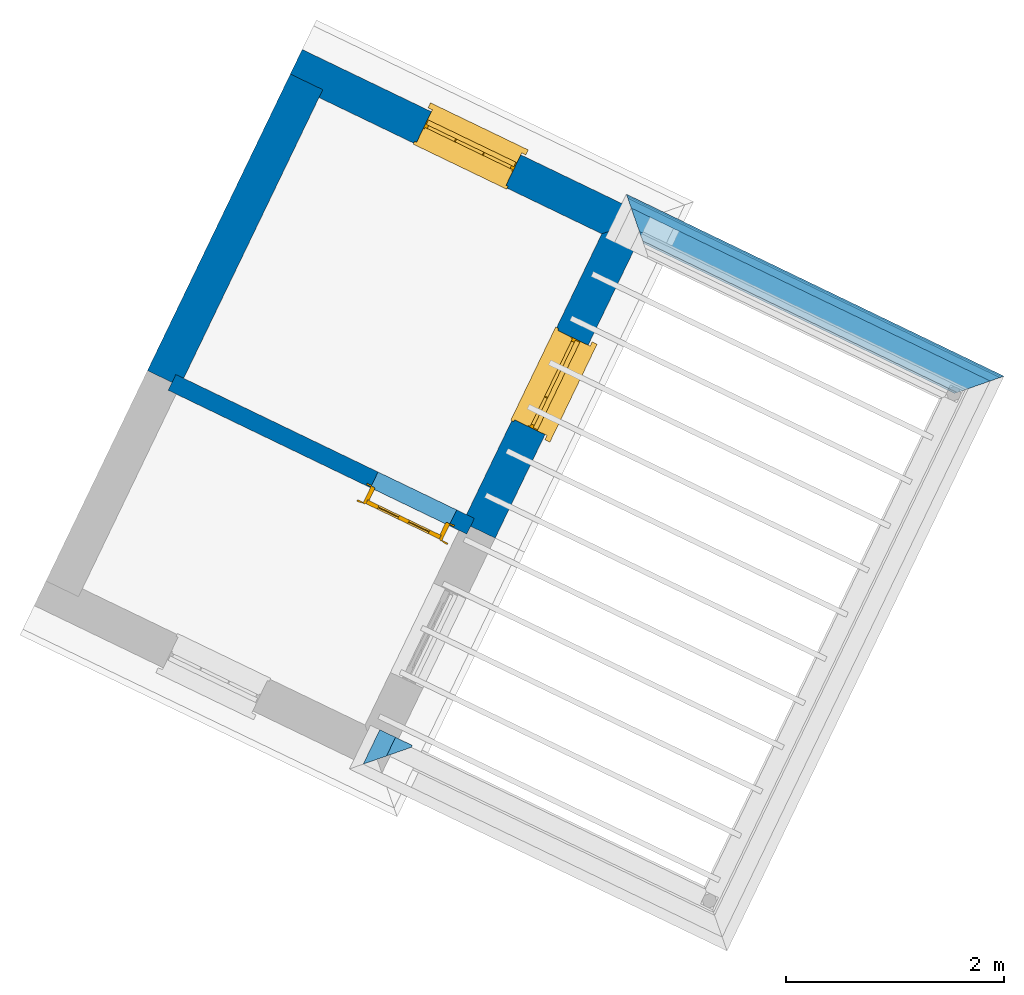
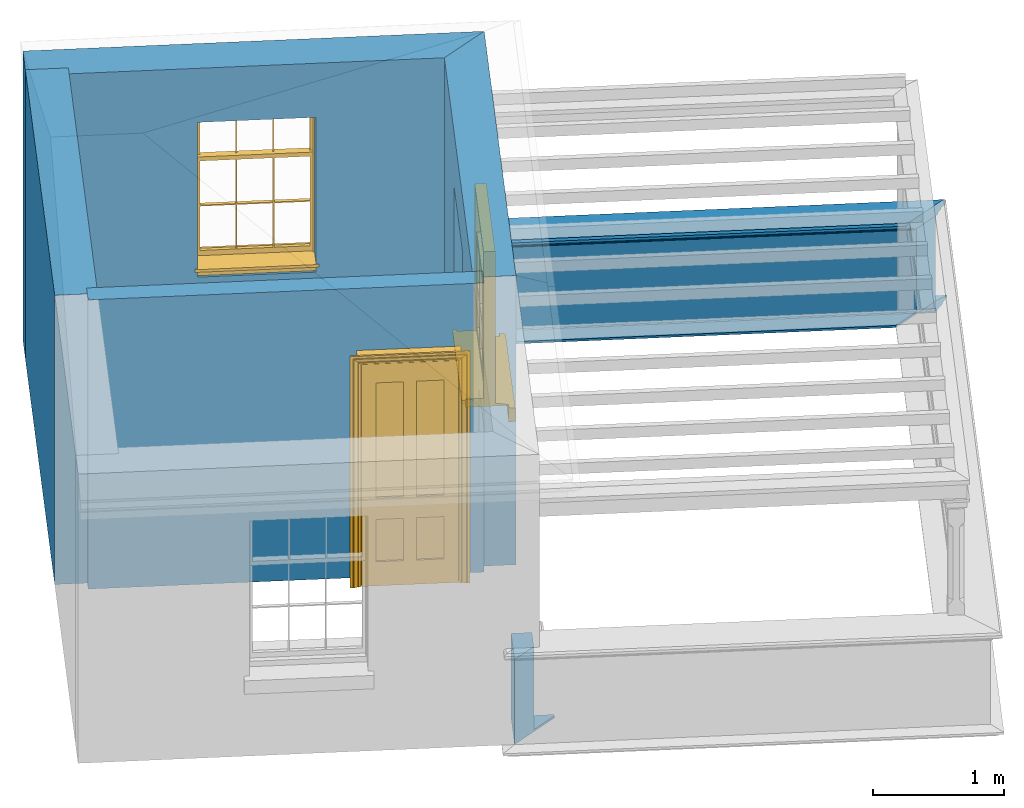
# One storey, part 3 of 4: 8 walls, 2 windows, 1 door, 3 openings.
"""IFC4 building model written with IfcOpenShell, lengths in metres."""

from ifc_helpers import new_model, si_unit, frame, origin, origin_with_axes, place, context, subcontext, project, spatial, polyline, outline, extrude, clip, halfspace, faceted_brep, source, transform, mapped, material, layer, layer_set, layer_usage, material_profile, profile_set, profile_usage, type_object, type_shapes, element, fill, save


model = new_model("IFC4")

# Units and contexts
model_context = context("Model", 3, world=origin_with_axes())
body_context = subcontext(model_context, "Body", "Model", "MODEL_VIEW")
ifc_project = project(units=[si_unit("PLANEANGLEUNIT", "RADIAN"), si_unit("MASSUNIT", "GRAM", prefix="KILO"), si_unit("FORCEUNIT", "NEWTON", prefix="KILO"), si_unit("LENGTHUNIT", "METRE"), si_unit("AREAUNIT", "SQUARE_METRE"), si_unit("VOLUMEUNIT", "CUBIC_METRE")], contexts=[model_context, model_context])

# Sites, building, storey
site_1_placement = place(None, origin_with_axes())
site_1 = spatial("IfcSite", under=ifc_project, at=site_1_placement, Name="Tamar")
site_2_placement = place(site_1_placement, origin_with_axes())
site_2 = spatial("IfcSite", under=site_1, at=site_2_placement, Name="Site plot-2", CompositionType="ELEMENT")
building_placement = place(None, origin_with_axes())
building = spatial("IfcBuilding", under=site_2, at=building_placement, Name="Building plot-2", CompositionType="ELEMENT")
storey_placement = place(None, frame((0.0, 0.0, 31.55), z_axis=(0.0, 0.0, 1.0), x_axis=(1.0, 0.0, 0.0)))
storey = spatial("IfcBuildingStorey", under=building, at=storey_placement, Name="plot-2 2", CompositionType="ELEMENT", Elevation=31.55)

# Wall, opening, window
ifc_material_1 = material(Name="Masonry")
ifc_layer_1 = layer(ifc_material_1, 0.33, ventilated=False)
ifc_layer_set_1 = layer_set([ifc_layer_1], Name="exterior_0.08_0.25")
ifc_layer_usage_1 = layer_usage(ifc_layer_set_1, "AXIS2", "POSITIVE", -0.25)
wall_type_1 = type_object("IfcWallType", Name="exterior_0.08_0.25", PredefinedType="SOLIDWALL", material=ifc_layer_set_1)
wall_1_placement = place(storey_placement, frame((231.383215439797, 291.919063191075, 0.0), z_axis=(0.0, 0.0, 1.0), x_axis=(0.434117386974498, 0.900856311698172, 0.0)))
wall_1 = element("IfcWall", 1, at=wall_1_placement, inside=storey, type_object=wall_type_1, material=ifc_layer_usage_1, Name="exterior", context=body_context, shape_type="SweptSolid", body=[
    extrude(outline(polyline([(-3.63926530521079e-14, 0.0799999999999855), (4.8032453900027e-14, -0.249999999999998), (3.26696753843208, -0.250000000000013), (2.93696753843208, 0.0800000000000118), (-3.63926530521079e-14, 0.0799999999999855)])), origin_with_axes(), (0.0, 0.0, 1.0), 2.7),
])
opening_1_placement = place(wall_1_placement, frame((1.05348376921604, 0.0, 0.749999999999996)))
opening_1 = element("IfcOpeningElement", 2, at=opening_1_placement, cuts=wall_1, Name="My Opening", ObjectType="Opening", context=body_context, shape_type="SweptSolid", body=[
    extrude(outline(polyline([(0.0, -0.269999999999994), (0.909999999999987, -0.270000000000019), (0.909999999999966, 1.09999999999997), (-2.08721928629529e-14, 1.1), (0.0, -0.269999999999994)])), origin_with_axes(), (0.0, 0.0, 1.0), 1.445),
])
window_type = type_object("IfcWindowType", Name="sash_shorter", PartitioningType="DOUBLE_PANEL_HORIZONTAL", PredefinedType="NOTDEFINED")
shared_shape_1 = source(origin(), body_context, "Body", "Brep", [
    faceted_brep([(0.876875, 0.145, 0.999097), (0.876875, 0.145, 1.411875), (0.9, 0.145, 1.435), (0.033125, 0.145, 1.411875), (0.033125, 0.145, 0.999097), (0.01, 0.145, 1.435), (0.033125, 0.115, 1.411875), (0.01, 0.115, 1.435), (0.033125, 0.115, 0.999097), (0.876875, 0.115, 1.411875), (0.876875, 0.115, 0.999097), (0.9, 0.115, 1.435), (0.033125, 0.145, 0.960972), (0.01, 0.145, 0.960972), (0.033125, 0.145, 0.548195), (0.876875, 0.145, 0.960972), (0.876875, 0.145, 0.548195), (0.9, 0.145, 0.960972), (0.876875, 0.145, 0.538195), (0.876875, 0.145, 0.125417), (0.9, 0.145, 0.077167), (0.033125, 0.145, 0.125417), (0.033125, 0.145, 0.538195), (0.01, 0.145, 0.077167), (0.9, 0.115, 0.960972), (0.01, 0.115, 0.960972), (-0.0425, 0.0, 0.01), (-0.0425, -0.05, 0.001667), (0.0, 0.0, 0.01), (0.9525, 0.0, 0.01), (0.91, 0.0, 0.01), (0.9525, -0.05, 0.001667), (-0.02, 0.33, 0.077167), (0.0, 0.33, 0.077167), (-0.02, 0.36, 0.077167), (0.0, 0.19, 0.077167), (0.01, 0.19, 0.077167), (0.91, 0.19, 0.077167), (0.91, 0.33, 0.077167), (0.9, 0.19, 0.077167), (0.93, 0.33, 0.077167), (0.93, 0.36, 0.077167), (0.01, 0.145, 0.999097), (0.01, 0.175, 0.999097), (0.9, 0.145, 0.999097), (0.9, 0.175, 0.999097), (0.876875, 0.175, 0.125417), (0.876875, 0.175, 0.538195), (0.9, 0.175, 0.077167), (0.876875, 0.175, 0.548195), (0.876875, 0.175, 0.960972), (0.033125, 0.175, 0.125417), (0.01, 0.175, 0.077167), (0.033125, 0.175, 0.538195), (0.033125, 0.175, 0.960972), (0.033125, 0.175, 0.548195), (-0.02, 0.33, 0.052167), (-0.02, 0.36, 0.052167), (0.93, 0.36, 0.052167), (0.93, 0.33, 0.052167), (0.91, 0.33, 0.052167), (0.0, 0.33, 0.052167), (0.91, 0.1, 0.026667), (0.0, 0.1, 0.026667), (-0.0425, -0.05, -0.123333), (0.9525, -0.05, -0.123333), (-0.0425, 0.0, -0.123333), (0.9525, 0.0, -0.123333), (0.01, 0.19, 1.435), (0.9, 0.19, 1.435), (0.0, 0.19, 1.445), (0.91, 0.19, 1.445), (0.01, 0.1, 0.077167), (0.9, 0.1, 0.077167), (0.592292, 0.145, 0.125417), (0.592292, 0.175, 0.125417), (0.317708, 0.175, 0.125417), (0.317708, 0.145, 0.125417), (0.592292, 0.145, 0.548195), (0.317708, 0.145, 0.548195), (0.317708, 0.145, 0.538195), (0.592292, 0.145, 0.538195), (0.592292, 0.175, 0.548195), (0.317708, 0.175, 0.548195), (0.602292, 0.175, 0.548195), (0.602292, 0.145, 0.548195), (0.317708, 0.175, 0.538195), (0.307708, 0.175, 0.125417), (0.307708, 0.175, 0.538195), (0.602292, 0.175, 0.538195), (0.602292, 0.175, 0.125417), (0.592292, 0.175, 0.538195), (0.307708, 0.175, 0.548195), (0.317708, 0.175, 0.960972), (0.307708, 0.175, 0.960972), (0.602292, 0.175, 0.960972), (0.592292, 0.175, 0.960972), (0.307708, 0.145, 0.538195), (0.307708, 0.145, 0.125417), (0.307708, 0.145, 0.548195), (0.307708, 0.145, 0.960972), (0.592292, 0.145, 0.960972), (0.317708, 0.145, 0.960972), (0.602292, 0.145, 0.960972), (0.602292, 0.145, 0.538195), (0.602292, 0.145, 0.125417), (0.317708, 0.115, 1.411875), (0.307708, 0.115, 1.411875), (0.307708, 0.115, 0.999097), (0.317708, 0.115, 0.999097), (0.602292, 0.115, 1.411875), (0.592292, 0.115, 1.411875), (0.592292, 0.115, 0.999097), (0.602292, 0.115, 0.999097), (0.317708, 0.145, 0.999097), (0.307708, 0.145, 0.999097), (0.307708, 0.145, 1.411875), (0.317708, 0.145, 1.411875), (0.602292, 0.145, 0.999097), (0.592292, 0.145, 0.999097), (0.592292, 0.145, 1.411875), (0.602292, 0.145, 1.411875), (0.91, 0.1, 1.445), (0.9, 0.1, 1.435), (0.01, 0.1, 1.435), (0.0, 0.1, 1.445), (0.91, 0.0, 0.0), (0.0, 0.0, 0.0), (0.91, 0.33, 0.0), (0.0, 0.33, 0.0)], [[[0, 1, 2]], [[3, 4, 5]], [[6, 7, 8]], [[9, 10, 11]], [[12, 13, 14]], [[15, 16, 17]], [[18, 19, 20]], [[21, 22, 23]], [[24, 15, 17]], [[13, 12, 25]], [[26, 27, 28]], [[29, 30, 31]], [[32, 33, 34]], [[35, 36, 33]], [[37, 38, 39]], [[40, 41, 38]], [[42, 4, 43]], [[44, 45, 0]], [[46, 47, 48]], [[49, 50, 45]], [[51, 52, 53]], [[54, 55, 43]], [[38, 33, 36, 39]], [[41, 34, 33, 38]], [[56, 32, 34, 57]], [[57, 34, 41, 58]], [[58, 41, 40, 59]], [[57, 58, 60, 61]], [[52, 48, 39, 36]], [[62, 63, 28, 30]], [[27, 31, 30, 28]], [[27, 64, 65, 31]], [[66, 67, 65, 64]], [[2, 5, 68, 69]], [[68, 70, 71, 69]], [[20, 23, 72, 73]], [[73, 72, 63, 62]], [[74, 75, 76, 77]], [[78, 79, 80, 81]], [[78, 82, 83, 79]], [[16, 49, 84, 85]], [[86, 76, 87, 88]], [[89, 90, 75, 91]], [[92, 88, 53, 55]], [[82, 91, 86, 83]], [[93, 83, 92, 94]], [[95, 84, 82, 96]], [[89, 84, 49, 47]], [[97, 88, 87, 98]], [[22, 53, 88, 97]], [[81, 91, 75, 74]], [[80, 86, 91, 81]], [[77, 76, 86, 80]], [[99, 92, 55, 14]], [[100, 94, 92, 99]], [[101, 96, 82, 78]], [[79, 83, 93, 102]], [[85, 84, 95, 103]], [[104, 89, 47, 18]], [[105, 90, 89, 104]], [[104, 18, 16, 85]], [[80, 97, 98, 77]], [[104, 81, 74, 105]], [[103, 101, 78, 85]], [[99, 14, 22, 97]], [[102, 100, 99, 79]], [[106, 107, 108, 109]], [[110, 111, 112, 113]], [[114, 115, 116, 117]], [[118, 119, 120, 121]], [[107, 116, 115, 108]], [[111, 120, 119, 112]], [[109, 114, 117, 106]], [[113, 118, 121, 110]], [[85, 78, 81, 104]], [[84, 89, 91, 82]], [[83, 86, 88, 92]], [[79, 99, 97, 80]], [[109, 112, 119, 114]], [[102, 93, 96, 101]], [[106, 117, 120, 111]], [[98, 87, 51, 21]], [[6, 3, 116, 107]], [[110, 121, 1, 9]], [[19, 46, 90, 105]], [[26, 66, 64, 27]], [[29, 31, 65, 67]], [[25, 24, 112, 109]], [[11, 7, 106, 111]], [[75, 48, 52, 76]], [[43, 45, 96, 93]], [[45, 43, 114, 119]], [[5, 2, 120, 117]], [[24, 25, 102, 101]], [[42, 5, 4]], [[2, 44, 0]], [[49, 45, 48, 47]], [[52, 43, 55, 53]], [[14, 13, 23, 22]], [[20, 17, 16, 18]], [[24, 11, 10]], [[25, 8, 7]], [[8, 4, 3, 6]], [[9, 1, 0, 10]], [[15, 50, 49, 16]], [[18, 47, 46, 19]], [[21, 51, 53, 22]], [[14, 55, 54, 12]], [[44, 2, 69, 45]], [[68, 5, 42, 43]], [[36, 35, 70, 68]], [[39, 69, 71, 37]], [[62, 122, 123, 73]], [[63, 72, 124, 125]], [[8, 108, 115, 4]], [[113, 10, 0, 118]], [[94, 100, 12, 54]], [[17, 20, 73, 24]], [[72, 23, 13, 25]], [[52, 36, 68, 43]], [[69, 39, 48, 45]], [[11, 24, 73, 123]], [[7, 124, 72, 25]], [[23, 77, 98]], [[98, 21, 23]], [[105, 74, 20]], [[20, 19, 105]], [[20, 74, 77, 23]], [[113, 112, 24]], [[24, 10, 113]], [[25, 109, 108]], [[108, 8, 25]], [[110, 9, 11]], [[11, 111, 110]], [[7, 6, 107]], [[107, 106, 7]], [[5, 117, 116]], [[116, 3, 5]], [[121, 120, 2]], [[2, 1, 121]], [[11, 123, 124, 7]], [[122, 125, 124, 123]], [[43, 93, 94]], [[94, 54, 43]], [[96, 45, 95]], [[50, 95, 45]], [[15, 103, 95, 50]], [[48, 75, 90]], [[90, 46, 48]], [[87, 76, 52]], [[52, 51, 87]], [[103, 15, 24]], [[24, 101, 103]], [[100, 102, 25]], [[25, 12, 100]], [[115, 114, 43]], [[43, 4, 115]], [[118, 0, 45]], [[45, 119, 118]], [[71, 70, 125, 122]], [[70, 35, 63, 125]], [[122, 62, 37, 71]], [[126, 67, 66, 127]], [[60, 58, 59]], [[38, 60, 59, 40]], [[61, 56, 57]], [[32, 56, 61, 33]], [[61, 60, 128, 129]], [[62, 60, 38, 37]], [[126, 128, 60, 62]], [[33, 61, 63, 35]], [[61, 129, 127, 63]], [[128, 126, 127, 129]], [[28, 127, 66, 26]], [[63, 127, 28]], [[29, 67, 126, 30]], [[30, 126, 62]]]),
])
type_shapes(window_type, [shared_shape_1])
window_1_placement = place(storey_placement, frame((232.083782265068, 292.750888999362, 0.749999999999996), z_axis=(0.0, 0.0, 1.0), x_axis=(0.39504682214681, 0.819779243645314, 0.0)))
window_1 = element("IfcWindow", 3, at=window_1_placement, inside=storey, type_object=window_type, Name="toilet outside window", OverallHeight=1.445, OverallWidth=0.91, context=body_context, shape_type="MappedRepresentation", body=[
    mapped(shared_shape_1, transform((0.0, 0.0, 0.0), scale=1.0)),
])
fill(opening_1, window_1)

wall_2_placement = place(storey_placement, frame((232.692933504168, 294.63691744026, 0.0), z_axis=(0.0, 0.0, 1.0), x_axis=(-0.900856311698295, 0.434117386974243, 0.0)))
wall_2 = element("IfcWall", 4, at=wall_2_placement, inside=storey, type_object=wall_type_1, material=ifc_layer_usage_1, Name="exterior", context=body_context, shape_type="SweptSolid", body=[
    extrude(outline(polyline([(0.0800000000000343, 0.0799999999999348), (-0.250000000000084, -0.249999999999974), (3.28765432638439, -0.250000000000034), (3.28765432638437, 0.0800000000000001), (0.0800000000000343, 0.0799999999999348)])), origin_with_axes(), (0.0, 0.0, 1.0), 2.7),
])
opening_2_placement = place(wall_2_placement, frame((1.06382716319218, 0.0, 0.749999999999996)))
opening_2 = element("IfcOpeningElement", 5, at=opening_2_placement, cuts=wall_2, Name="My Opening", ObjectType="Opening", context=body_context, shape_type="SweptSolid", body=[
    extrude(outline(polyline([(0.0, -0.27), (0.909999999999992, -0.269999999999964), (0.909999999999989, 1.10000000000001), (-2.22044604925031e-15, 1.09999999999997), (0.0, -0.27)])), origin_with_axes(), (0.0, 0.0, 1.0), 1.445),
])
window_2_placement = place(storey_placement, frame((231.851789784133, 295.341974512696, 0.749999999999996), z_axis=(0.0, 0.0, 1.0), x_axis=(-0.819779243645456, 0.395046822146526, 0.0)))
window_2 = element("IfcWindow", 6, at=window_2_placement, inside=storey, type_object=window_type, Name="toilet outside window", OverallHeight=1.445, OverallWidth=0.91, context=body_context, shape_type="MappedRepresentation", body=[
    mapped(shared_shape_1, transform((0.0, 0.0, 0.0), scale=1.0)),
])
fill(opening_2, window_2)

# Wall
ifc_material_2 = material(Name="Masonry")
ifc_layer_2 = layer(ifc_material_2, 0.33, ventilated=False)
ifc_layer_set_2 = layer_set([ifc_layer_2], Name="party_0.08_0.25")
ifc_layer_usage_2 = layer_usage(ifc_layer_set_2, "AXIS2", "POSITIVE", -0.25)
wall_type_2 = type_object("IfcWallType", Name="party_0.08_0.25", PredefinedType="SOLIDWALL", material=ifc_layer_set_2)
wall_3_placement = place(storey_placement, frame((229.956443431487, 295.955615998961, 0.0), z_axis=(0.0, 0.0, 1.0), x_axis=(-0.43411738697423, -0.900856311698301, 0.0)))
element("IfcWall", 7, at=wall_3_placement, inside=storey, type_object=wall_type_2, material=ifc_layer_usage_2, Name="party", context=body_context, shape_type="SweptSolid", body=[
    extrude(outline(polyline([(-1.26623564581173e-14, 0.0799999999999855), (-2.62969775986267e-14, -0.249999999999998), (3.01696753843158, -0.249999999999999), (3.01696753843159, 0.0799999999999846), (-1.26623564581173e-14, 0.0799999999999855)])), origin_with_axes(), (0.0, 0.0, 1.0), 2.7),
])

# Wall, opening, door
ifc_material_3 = material(Name="Masonry")
ifc_layer_3 = layer(ifc_material_3, 0.16, ventilated=False)
ifc_layer_set_3 = layer_set([ifc_layer_3], Name="interior_0.08_0.08")
ifc_layer_usage_3 = layer_usage(ifc_layer_set_3, "AXIS2", "POSITIVE", -0.08)
wall_type_3 = type_object("IfcWallType", Name="interior_0.08_0.08", PredefinedType="SOLIDWALL", material=ifc_layer_set_3)
wall_4_placement = place(storey_placement, frame((231.383215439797, 291.919063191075, 0.0), z_axis=(0.0, 0.0, 1.0), x_axis=(-0.900856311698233, 0.434117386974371, 0.0)))
wall_4 = element("IfcWall", 8, at=wall_4_placement, inside=storey, type_object=wall_type_3, material=ifc_layer_usage_3, Name="interior", context=body_context, shape_type="SweptSolid", body=[
    extrude(outline(polyline([(-1.18611651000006e-14, 0.0800000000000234), (1.18709622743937e-14, -0.0800000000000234), (3.03765432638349, -0.0800000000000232), (3.03765432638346, 0.0800000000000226), (-1.18611651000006e-14, 0.0800000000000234)])), origin_with_axes(), (0.0, 0.0, 1.0), 2.7),
])
opening_3_placement = place(wall_4_placement, frame((0.179999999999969, 0.0, 0.0199999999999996)))
opening_3 = element("IfcOpeningElement", 9, at=opening_3_placement, cuts=wall_4, Name="My Opening", ObjectType="Opening", context=body_context, shape_type="SweptSolid", body=[
    extrude(outline(polyline([(0.0, -0.0999999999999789), (0.800000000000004, -0.099999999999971), (0.800000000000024, 1.10000000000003), (2.04558592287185e-14, 1.10000000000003), (0.0, -0.0999999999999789)])), origin_with_axes(), (0.0, 0.0, 1.0), 2.1),
])
door_type = type_object("IfcDoorType", Name="door_inside", OperationType="SINGLE_SWING_LEFT", PredefinedType="NOTDEFINED")
shared_shape_2 = source(origin(), body_context, "Body", "Brep", [
    faceted_brep([(0.773, 0.33, 1.895), (0.66, 0.33, 1.895), (0.66, 0.33, 2.073), (0.773, 0.33, 2.073), (0.773, 0.33, 0.82), (0.66, 0.33, 0.82), (0.45, 0.33, 1.895), (0.45, 0.33, 2.073), (0.773, 0.33, 0.62), (0.66, 0.33, 0.62), (0.66, 0.315, 0.82), (0.66, 0.315, 1.895), (0.45, 0.315, 1.895), (0.35, 0.33, 1.895), (0.35, 0.33, 2.073), (0.773, 0.33, 0.225), (0.66, 0.33, 0.225), (0.45, 0.33, 0.62), (0.45, 0.33, 0.82), (0.45, 0.315, 0.82), (0.35, 0.33, 0.82), (0.14, 0.33, 2.073), (0.14, 0.33, 1.895), (0.773, 0.33, 0.0), (0.66, 0.33, 0.0), (0.66, 0.315, 0.225), (0.66, 0.315, 0.62), (0.45, 0.315, 0.62), (0.35, 0.33, 0.62), (0.35, 0.315, 0.82), (0.35, 0.315, 1.895), (0.14, 0.315, 1.895), (0.027, 0.33, 2.073), (0.027, 0.33, 1.895), (0.773, 0.292, 0.0), (0.66, 0.292, 0.0), (0.45, 0.33, 0.0), (0.45, 0.33, 0.225), (0.45, 0.315, 0.225), (0.35, 0.33, 0.225), (0.14, 0.33, 0.82), (0.14, 0.33, 0.62), (0.14, 0.315, 0.82), (0.027, 0.33, 0.82), (0.773, 0.292, 0.225), (0.66, 0.292, 0.225), (0.45, 0.292, 0.0), (0.35, 0.33, 0.0), (0.35, 0.315, 0.225), (0.35, 0.315, 0.62), (0.14, 0.315, 0.62), (0.027, 0.33, 0.62), (0.773, 0.292, 0.62), (0.66, 0.292, 0.62), (0.45, 0.292, 0.225), (0.35, 0.292, 0.0), (0.14, 0.33, 0.225), (0.14, 0.33, 0.0), (0.14, 0.315, 0.225), (0.027, 0.33, 0.225), (0.773, 0.292, 0.82), (0.66, 0.292, 0.82), (0.66, 0.307, 0.62), (0.66, 0.307, 0.225), (0.45, 0.307, 0.225), (0.35, 0.292, 0.225), (0.14, 0.292, 0.0), (0.027, 0.33, 0.0), (0.773, 0.292, 1.895), (0.66, 0.292, 1.895), (0.45, 0.292, 0.62), (0.45, 0.292, 0.82), (0.45, 0.307, 0.62), (0.35, 0.292, 0.62), (0.14, 0.292, 0.225), (0.027, 0.292, 0.0), (0.773, 0.292, 2.073), (0.66, 0.292, 2.073), (0.66, 0.307, 1.895), (0.66, 0.307, 0.82), (0.45, 0.307, 0.82), (0.35, 0.292, 0.82), (0.35, 0.307, 0.62), (0.35, 0.307, 0.225), (0.14, 0.307, 0.225), (0.027, 0.292, 0.225), (0.45, 0.292, 1.895), (0.45, 0.292, 2.073), (0.45, 0.307, 1.895), (0.35, 0.292, 1.895), (0.14, 0.292, 0.82), (0.14, 0.292, 0.62), (0.14, 0.307, 0.62), (0.027, 0.292, 0.62), (0.35, 0.292, 2.073), (0.35, 0.307, 1.895), (0.35, 0.307, 0.82), (0.14, 0.307, 0.82), (0.027, 0.292, 0.82), (0.14, 0.292, 2.073), (0.14, 0.292, 1.895), (0.14, 0.307, 1.895), (0.027, 0.292, 1.895), (0.027, 0.292, 2.073), (0.02, 0.335, 0.0), (0.005, 0.34, 0.0), (0.005, 0.34, 2.095), (0.02, 0.335, 2.08), (0.02, 0.33, 0.0), (0.0, 0.335, 0.0), (0.0, 0.335, 2.1), (0.795, 0.34, 2.095), (0.78, 0.335, 2.08), (0.02, 0.33, 2.08), (0.0, 0.33, 0.0), (-0.032, 0.345, 0.0), (-0.032, 0.345, 2.132), (0.8, 0.335, 2.1), (0.795, 0.34, 0.0), (0.78, 0.335, 0.0), (0.78, 0.33, 2.08), (0.04, 0.29, 0.0), (0.025, 0.29, 0.0), (0.025, 0.29, 2.075), (0.04, 0.29, 2.06), (-0.04, 0.34, 0.0), (-0.04, 0.34, 2.14), (0.832, 0.345, 2.132), (0.8, 0.335, 0.0), (0.78, 0.33, 0.0), (0.8, 0.33, 0.0), (0.86, 0.33, 0.0), (0.86, 0.33, 2.16), (0.8, 0.33, 2.1), (-0.06, 0.33, 2.16), (0.0, 0.33, 2.1), (-0.06, 0.33, 0.0), (-0.04, 0.345, 0.0), (-0.04, 0.345, 2.14), (0.84, 0.34, 2.14), (0.832, 0.345, 0.0), (0.84, 0.34, 0.0), (0.86, 0.345, 0.0), (0.86, 0.345, 2.16), (-0.06, 0.345, 2.16), (-0.06, 0.345, 0.0), (0.84, 0.345, 0.0), (0.84, 0.345, 2.14), (-0.025, 0.155, 0.0), (-0.025, 0.16, 0.0), (-0.025, 0.16, 2.125), (-0.025, 0.155, 2.125), (-0.017, 0.155, 0.0), (-0.017, 0.155, 2.117), (0.825, 0.16, 2.125), (0.825, 0.155, 2.125), (0.825, 0.155, 0.0), (0.845, 0.155, 0.0), (-0.045, 0.155, 2.145), (-0.045, 0.155, 0.0), (0.845, 0.155, 2.145), (0.015, 0.165, 0.0), (0.015, 0.165, 2.085), (0.817, 0.155, 2.117), (0.825, 0.16, 0.0), (0.845, 0.17, 0.0), (0.845, 0.17, 2.145), (-0.045, 0.17, 2.145), (-0.045, 0.17, 0.0), (0.02, 0.16, 0.0), (0.02, 0.16, 2.08), (0.785, 0.165, 2.085), (0.817, 0.155, 0.0), (0.8, 0.17, 0.0), (0.8, 0.17, 2.1), (0.0, 0.17, 2.1), (0.0, 0.17, 0.0), (0.035, 0.165, 0.0), (0.035, 0.165, 2.065), (0.78, 0.16, 2.08), (0.785, 0.165, 0.0), (0.775, 0.29, 2.075), (0.76, 0.29, 2.06), (0.035, 0.17, 2.065), (0.035, 0.17, 0.0), (0.765, 0.165, 2.065), (0.78, 0.16, 0.0), (0.765, 0.17, 0.0), (0.765, 0.17, 2.065), (0.765, 0.165, 0.0), (0.04, 0.17, 2.06), (0.04, 0.17, 0.0), (0.76, 0.17, 2.06), (0.76, 0.17, 0.0), (0.76, 0.29, 0.0), (0.775, 0.29, 0.0), (0.025, 0.33, 0.0), (0.025, 0.33, 2.075), (0.775, 0.33, 0.0), (0.775, 0.33, 2.075)], [[[0, 1, 2, 3]], [[1, 0, 4, 5]], [[1, 6, 7, 2]], [[8, 9, 5, 4]], [[1, 5, 10, 11]], [[6, 1, 11, 12]], [[6, 13, 14, 7]], [[15, 16, 9, 8]], [[9, 17, 18, 5]], [[5, 18, 19, 10]], [[10, 19, 12, 11]], [[18, 6, 12, 19]], [[18, 20, 13, 6]], [[21, 14, 13, 22]], [[23, 24, 16, 15]], [[9, 16, 25, 26]], [[17, 9, 26, 27]], [[17, 28, 20, 18]], [[13, 20, 29, 30]], [[22, 13, 30, 31]], [[32, 21, 22, 33]], [[34, 35, 24, 23]], [[24, 36, 37, 16]], [[16, 37, 38, 25]], [[25, 38, 27, 26]], [[37, 17, 27, 38]], [[37, 39, 28, 17]], [[40, 20, 28, 41]], [[20, 40, 42, 29]], [[31, 30, 29, 42]], [[40, 22, 31, 42]], [[33, 22, 40, 43]], [[35, 34, 44, 45]], [[35, 46, 36, 24]], [[36, 47, 39, 37]], [[28, 39, 48, 49]], [[41, 28, 49, 50]], [[43, 40, 41, 51]], [[45, 44, 52, 53]], [[46, 35, 45, 54]], [[46, 55, 47, 36]], [[56, 39, 47, 57]], [[39, 56, 58, 48]], [[50, 49, 48, 58]], [[56, 41, 50, 58]], [[51, 41, 56, 59]], [[53, 52, 60, 61]], [[45, 53, 62, 63]], [[54, 45, 63, 64]], [[55, 46, 54, 65]], [[55, 66, 57, 47]], [[59, 56, 57, 67]], [[61, 60, 68, 69]], [[70, 53, 61, 71]], [[53, 70, 72, 62]], [[72, 64, 63, 62]], [[70, 54, 64, 72]], [[65, 54, 70, 73]], [[65, 74, 66, 55]], [[67, 57, 66, 75]], [[69, 68, 76, 77]], [[61, 69, 78, 79]], [[71, 61, 79, 80]], [[73, 70, 71, 81]], [[65, 73, 82, 83]], [[74, 65, 83, 84]], [[74, 85, 75, 66]], [[86, 69, 77, 87]], [[69, 86, 88, 78]], [[88, 80, 79, 78]], [[86, 71, 80, 88]], [[81, 71, 86, 89]], [[73, 81, 90, 91]], [[73, 91, 92, 82]], [[83, 82, 92, 84]], [[91, 74, 84, 92]], [[91, 93, 85, 74]], [[89, 86, 87, 94]], [[81, 89, 95, 96]], [[90, 81, 96, 97]], [[90, 98, 93, 91]], [[94, 99, 100, 89]], [[89, 100, 101, 95]], [[101, 97, 96, 95]], [[100, 90, 97, 101]], [[100, 102, 98, 90]], [[99, 103, 102, 100]], [[32, 103, 99, 21]], [[102, 103, 32, 33]], [[98, 102, 33, 43]], [[21, 99, 94, 14]], [[94, 87, 7, 14]], [[7, 87, 77, 2]], [[76, 3, 2, 77]], [[43, 51, 93, 98]], [[51, 59, 85, 93]], [[67, 75, 85, 59]], [[34, 23, 15, 44]], [[44, 15, 8, 52]], [[52, 8, 4, 60]], [[0, 68, 60, 4]], [[0, 3, 76, 68]], [[104, 105, 106, 107]], [[104, 108, 109, 105]], [[105, 109, 110, 106]], [[107, 106, 111, 112]], [[107, 113, 108, 104]], [[114, 109, 108]], [[109, 115, 116, 110]], [[106, 110, 117, 111]], [[112, 111, 118, 119]], [[113, 107, 112, 120]], [[121, 122, 123, 124]], [[115, 109, 114, 125]], [[115, 125, 126, 116]], [[110, 116, 127, 117]], [[111, 117, 128, 118]], [[118, 128, 129, 119]], [[120, 112, 119, 129]], [[130, 129, 128]], [[130, 131, 132, 133]], [[133, 132, 134, 135]], [[135, 134, 136, 114]], [[136, 125, 114]], [[125, 137, 138, 126]], [[116, 126, 139, 127]], [[117, 127, 140, 128]], [[141, 130, 128, 140]], [[131, 130, 141]], [[131, 142, 143, 132]], [[132, 143, 144, 134]], [[134, 144, 145, 136]], [[137, 125, 136, 145]], [[143, 142, 146]], [[143, 146, 147]], [[137, 145, 144]], [[143, 147, 138]], [[138, 137, 144]], [[143, 138, 144]], [[126, 138, 147, 139]], [[127, 139, 141, 140]], [[142, 131, 141, 146]], [[139, 147, 146, 141]], [[148, 149, 150, 151]], [[149, 152, 153, 150]], [[151, 150, 154, 155]], [[155, 156, 157]], [[158, 159, 148]], [[158, 148, 151]], [[155, 157, 160]], [[158, 151, 155]], [[155, 160, 158]], [[152, 161, 162, 153]], [[150, 153, 163, 154]], [[155, 154, 164, 156]], [[156, 164, 165, 157]], [[157, 165, 166, 160]], [[160, 166, 167, 158]], [[158, 167, 168, 159]], [[161, 169, 170, 162]], [[153, 162, 171, 163]], [[154, 163, 172, 164]], [[165, 164, 173]], [[165, 173, 174, 166]], [[166, 174, 175, 167]], [[167, 175, 176, 168]], [[169, 177, 178, 170]], [[162, 170, 179, 171]], [[163, 171, 180, 172]], [[172, 180, 173, 164]], [[124, 123, 181, 182]], [[183, 178, 177, 184]], [[170, 178, 185, 179]], [[171, 179, 186, 180]], [[187, 173, 180]], [[185, 188, 187, 189]], [[188, 185, 178, 183]], [[179, 185, 189, 186]], [[189, 187, 180, 186]], [[190, 183, 184, 191]], [[192, 188, 183, 190]], [[191, 184, 122, 121]], [[124, 190, 191, 121]], [[193, 187, 188, 192]], [[182, 192, 190, 124]], [[184, 176, 122]], [[194, 195, 187, 193]], [[192, 182, 194, 193]], [[161, 176, 184]], [[114, 108, 122, 176]], [[173, 187, 195]], [[152, 149, 176, 161]], [[169, 161, 184, 177]], [[196, 122, 108]], [[176, 175, 135, 114]], [[173, 195, 129, 130]], [[176, 149, 168]], [[123, 122, 196, 197]], [[196, 108, 113, 197]], [[175, 174, 133, 135]], [[198, 129, 195]], [[133, 174, 173, 130]], [[159, 168, 149, 148]], [[181, 123, 197, 199]], [[197, 113, 120, 199]], [[199, 120, 129, 198]], [[195, 181, 199, 198]], [[195, 194, 182, 181]]]),
])
type_shapes(door_type, [shared_shape_2])
door_placement = place(storey_placement, frame((231.264473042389, 292.0872899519, 0.0199999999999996), z_axis=(0.0, 0.0, 1.0), x_axis=(-0.720685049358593, 0.347293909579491, 0.0)))
door = element("IfcDoor", 10, at=door_placement, inside=storey, type_object=door_type, Name="toilet inside door", OverallHeight=2.1, OverallWidth=0.8, context=body_context, shape_type="MappedRepresentation", body=[
    mapped(shared_shape_2, transform((0.0, 0.0, 0.0), scale=1.0)),
])
fill(opening_3, door)

# Walls
ifc_material_profile_1 = material_profile(None, outline(polyline([(0.25, 0.0), (0.25, 0.795), (0.09, 0.795), (0.09, 0.02), (-0.08, 0.02), (-0.08, 0.0), (0.25, 0.0)])))
ifc_profile_set_1 = profile_set([ifc_material_profile_1])
ifc_profile_usage_1 = profile_usage(ifc_profile_set_1)
wall_type_4 = type_object("IfcWallType", Name="parapet_0", PredefinedType="PARAPET", material=ifc_profile_set_1)
wall_5_placement = place(storey_placement, frame((230.298870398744, 288.954797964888, 0.0), z_axis=(0.434117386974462, 0.90085631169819, 0.0), x_axis=(-0.90085631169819, 0.434117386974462, 0.0)))
element("IfcWall", 11, at=wall_5_placement, inside=storey, type_object=wall_type_4, material=ifc_profile_usage_1, Name="parapet_0", context=body_context, shape_type="Clipping", body=[
    clip(clip(extrude(outline(polyline([(0.25, 0.0), (0.25, 0.795), (0.09, 0.795), (0.09, 0.02), (-0.08, 0.02), (-0.08, 0.0), (0.25, 0.0)])), origin_with_axes(), (0.0, 0.0, 1.0), 2.09999999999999), halfspace(frame((0.0, 0.0, 1.09999999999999), z_axis=(-2.49302280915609e-14, 0.0, -1.0), x_axis=(0.0, 1.0, 0.0)), True)), halfspace(frame((0.0, 0.0, 1.0), z_axis=(-0.707106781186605, 0.0, -0.70710678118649), x_axis=(0.0, 1.0, 0.0)), False)),
])
ifc_profile_usage_2 = profile_usage(ifc_profile_set_1)
wall_6_placement = place(storey_placement, frame((232.071342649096, 294.936458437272, 0.0), z_axis=(0.900856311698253, -0.43411738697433, 0.0), x_axis=(0.43411738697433, 0.900856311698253, 0.0)))
element("IfcWall", 12, at=wall_6_placement, inside=storey, type_object=wall_type_4, material=ifc_profile_usage_2, Name="parapet_0", context=body_context, shape_type="Clipping", body=[
    clip(clip(extrude(outline(polyline([(0.25, 0.0), (0.25, 0.795), (0.09, 0.795), (0.09, 0.02), (-0.08, 0.02), (-0.08, 0.0), (0.25, 0.0)])), origin_with_axes(), (0.0, 0.0, 1.0), 5.15234567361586), halfspace(frame((0.0, 0.0, 4.15234567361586), z_axis=(0.707106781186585, 0.0, -0.70710678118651), x_axis=(0.0, 1.0, 0.0)), True)), halfspace(frame((0.0, 0.0, 1.0), z_axis=(-0.707106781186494, 0.0, -0.707106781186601), x_axis=(0.0, 1.0, 0.0)), False)),
])
ifc_material_profile_2 = material_profile(None, outline(polyline([(0.265, 0.795), (0.268, 0.807), (0.274, 0.816), (0.283, 0.822), (0.295, 0.825), (0.295, 0.84), (0.305, 0.84), (0.317, 0.842), (0.326, 0.849), (0.333, 0.858), (0.335, 0.87), (0.333, 0.882), (0.326, 0.891), (0.317, 0.898), (0.305, 0.9), (0.035, 0.9), (0.023, 0.898), (0.014, 0.891), (0.007, 0.882), (0.005, 0.87), (0.007, 0.858), (0.014, 0.849), (0.023, 0.842), (0.035, 0.84), (0.045, 0.84), (0.045, 0.825), (0.057, 0.822), (0.066, 0.816), (0.072, 0.807), (0.075, 0.795), (0.265, 0.795)])))
ifc_profile_set_2 = profile_set([ifc_material_profile_2])
ifc_profile_usage_3 = profile_usage(ifc_profile_set_2)
wall_type_5 = type_object("IfcWallType", Name="parapet_1", PredefinedType="PARAPET", material=ifc_profile_set_2)
wall_7_placement = place(storey_placement, frame((232.071342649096, 294.936458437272, 0.0), z_axis=(0.900856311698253, -0.43411738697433, 0.0), x_axis=(0.43411738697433, 0.900856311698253, 0.0)))
element("IfcWall", 13, at=wall_7_placement, inside=storey, type_object=wall_type_5, material=ifc_profile_usage_3, Name="parapet_1", context=body_context, shape_type="Clipping", body=[
    clip(clip(extrude(outline(polyline([(0.265, 0.795), (0.268, 0.807), (0.274, 0.816), (0.283, 0.822), (0.295, 0.825), (0.295, 0.84), (0.305, 0.84), (0.317, 0.842), (0.326, 0.849), (0.333, 0.858), (0.335, 0.87), (0.333, 0.882), (0.326, 0.891), (0.317, 0.898), (0.305, 0.9), (0.035, 0.9), (0.023, 0.898), (0.014, 0.891), (0.007, 0.882), (0.005, 0.87), (0.007, 0.858), (0.014, 0.849), (0.023, 0.842), (0.035, 0.84), (0.045, 0.84), (0.045, 0.825), (0.057, 0.822), (0.066, 0.816), (0.072, 0.807), (0.075, 0.795), (0.265, 0.795)])), origin_with_axes(), (0.0, 0.0, 1.0), 5.15234567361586), halfspace(frame((0.0, 0.0, 4.15234567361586), z_axis=(0.707106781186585, 0.0, -0.70710678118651), x_axis=(0.0, 1.0, 0.0)), True)), halfspace(frame((0.0, 0.0, 1.0), z_axis=(-0.707106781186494, 0.0, -0.707106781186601), x_axis=(0.0, 1.0, 0.0)), False)),
])
ifc_material_profile_3 = material_profile(None, outline(polyline([(0.25, -0.1), (0.265, -0.1), (0.265, -0.085), (0.278, -0.084), (0.289, -0.081), (0.301, -0.074), (0.309, -0.065), (0.315, -0.055), (0.324, -0.044), (0.334, -0.038), (0.345, -0.035), (0.345, -0.015), (0.25, 0.0), (0.25, -0.1)])))
ifc_profile_set_3 = profile_set([ifc_material_profile_3])
ifc_profile_usage_4 = profile_usage(ifc_profile_set_3)
wall_type_6 = type_object("IfcWallType", Name="parapet_2", PredefinedType="PARAPET", material=ifc_profile_set_3)
wall_8_placement = place(storey_placement, frame((232.071342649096, 294.936458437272, 0.0), z_axis=(0.900856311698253, -0.43411738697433, 0.0), x_axis=(0.43411738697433, 0.900856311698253, 0.0)))
element("IfcWall", 14, at=wall_8_placement, inside=storey, type_object=wall_type_6, material=ifc_profile_usage_4, Name="parapet_2", context=body_context, shape_type="Clipping", body=[
    clip(clip(extrude(outline(polyline([(0.25, -0.1), (0.265, -0.1), (0.265, -0.085), (0.278, -0.084), (0.289, -0.081), (0.301, -0.074), (0.309, -0.065), (0.315, -0.055), (0.324, -0.044), (0.334, -0.038), (0.345, -0.035), (0.345, -0.015), (0.25, 0.0), (0.25, -0.1)])), origin_with_axes(), (0.0, 0.0, 1.0), 5.15234567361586), halfspace(frame((0.0, 0.0, 4.15234567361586), z_axis=(0.707106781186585, 0.0, -0.70710678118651), x_axis=(0.0, 1.0, 0.0)), True)), halfspace(frame((0.0, 0.0, 1.0), z_axis=(-0.707106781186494, 0.0, -0.707106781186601), x_axis=(0.0, 1.0, 0.0)), False)),
])

save(model, "model.ifc")
